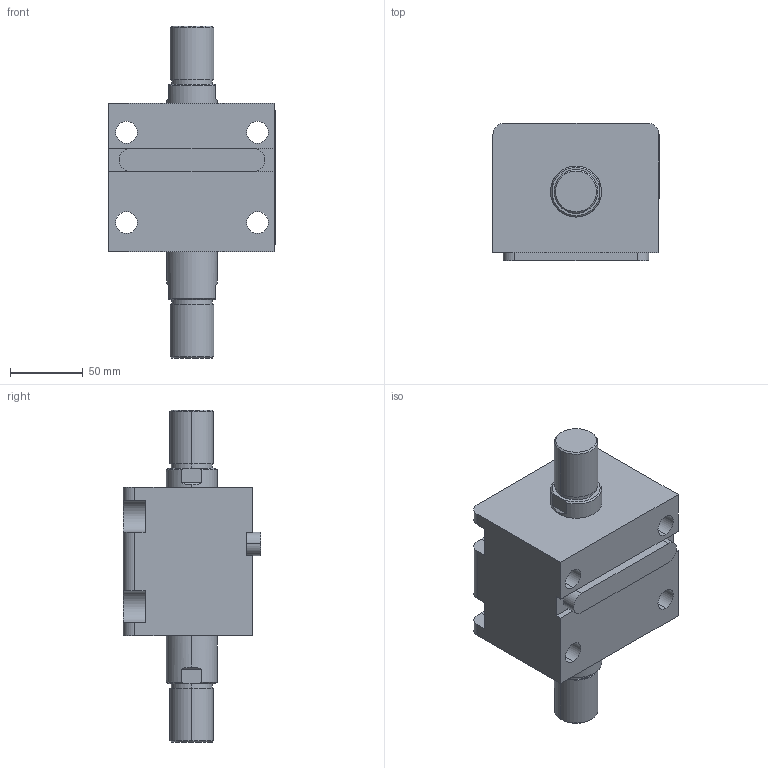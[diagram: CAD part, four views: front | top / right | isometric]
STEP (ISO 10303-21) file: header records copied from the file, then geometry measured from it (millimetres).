
FILE_DESCRIPTION (( 'STEP AP203' ), '1' );
FILE_NAME ('HTB-LW63-20W.STEP', '2019-10-09T08:24:22', ( '微软用户' ), ( '微软中国' ), 'SwSTEP 2.0', 'SolidWorks 2012', '' );
FILE_SCHEMA (( 'CONFIG_CONTROL_DESIGN' ));
Length unit declared in the file: millimetre
Products named in the file (4): HTB-LW63-20W; HTB-LA63-瑩; HTB-LW63-20W活塞杆; HTB-LW63-20掛极
Assembly tree (3 placements, depth 2):
  HTB-LW63-20W
    HTB-LW63-20掛极
    HTB-LW63-20W活塞杆
    HTB-LA63-瑩
Bounding box: 114 x 94.5 x 228 mm (x, y, z)
Volume: 1013679.6 mm3; surface area: 131801.8 mm2
Topology: 3 solids, 3 shells, 109 faces, 265 edges, 174 vertices
Faces by surface type: plane 48, cylinder 45, cone 12, torus 4
Entity records: 3679 total; most frequent: CARTESIAN_POINT 610, DIRECTION 593, ORIENTED_EDGE 530, EDGE_CURVE 265, AXIS2_PLACEMENT_3D 229, VERTEX_POINT 174, LINE 135, VECTOR 135
